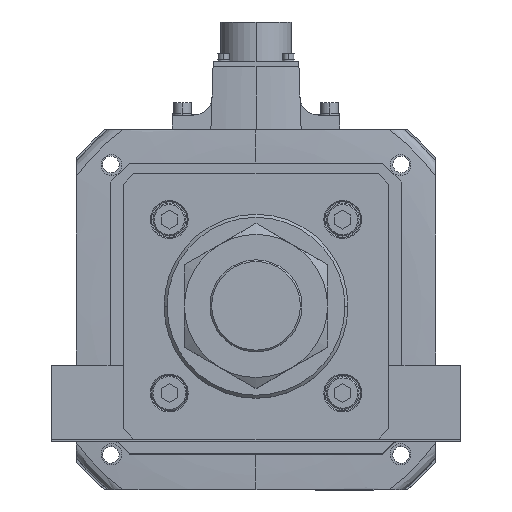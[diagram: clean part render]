
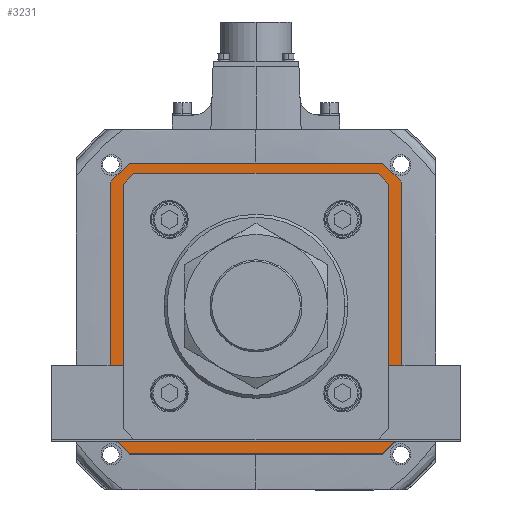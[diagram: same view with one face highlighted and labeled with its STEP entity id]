
A CAD part, top view. The second image highlights one B-rep face of the part: STEP entity #3231.
In plain terms, the highlighted planar face has unit normal (0, 0, 1).
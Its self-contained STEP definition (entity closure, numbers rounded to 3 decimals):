
#511 = VERTEX_POINT ( 'NONE', #18788 ) ;
#702 = DIRECTION ( 'NONE',  ( 1., 0., 0. ) ) ;
#706 = ORIENTED_EDGE ( 'NONE', *, *, #29351, .F. ) ;
#1806 = CARTESIAN_POINT ( 'NONE',  ( -62., -71., -142. ) ) ;
#1994 = VECTOR ( 'NONE', #38359, 1000. ) ;
#2083 = LINE ( 'NONE', #52412, #31493 ) ;
#2365 = CARTESIAN_POINT ( 'NONE',  ( 62., 71., -142. ) ) ;
#2744 = VERTEX_POINT ( 'NONE', #54514 ) ;
#3175 = LINE ( 'NONE', #4490, #17209 ) ;
#3231 = ADVANCED_FACE ( 'NONE', ( #54188, #6120 ), #26068, .T. ) ;
#3271 = CARTESIAN_POINT ( 'NONE',  ( -62., -71., -142. ) ) ;
#3335 = EDGE_CURVE ( 'NONE', #51892, #14984, #2083, .T. ) ;
#4490 = CARTESIAN_POINT ( 'NONE',  ( 63., 0., -142. ) ) ;
#4560 = CARTESIAN_POINT ( 'NONE',  ( 71., 62., -142. ) ) ;
#5049 = LINE ( 'NONE', #15846, #13117 ) ;
#5107 = ORIENTED_EDGE ( 'NONE', *, *, #38384, .T. ) ;
#5131 = ORIENTED_EDGE ( 'NONE', *, *, #49811, .F. ) ;
#5380 = EDGE_CURVE ( 'NONE', #35681, #32836, #10688, .T. ) ;
#5412 = DIRECTION ( 'NONE',  ( 0., -1., 0. ) ) ;
#5540 = EDGE_CURVE ( 'NONE', #2744, #11419, #24704, .T. ) ;
#6120 = FACE_OUTER_BOUND ( 'NONE', #26437, .T. ) ;
#6607 = VERTEX_POINT ( 'NONE', #15430 ) ;
#7758 = ORIENTED_EDGE ( 'NONE', *, *, #5380, .F. ) ;
#7759 = ORIENTED_EDGE ( 'NONE', *, *, #20086, .T. ) ;
#7825 = LINE ( 'NONE', #34876, #10519 ) ;
#8466 = CARTESIAN_POINT ( 'NONE',  ( 60.896, 60.896, -142. ) ) ;
#9086 = CARTESIAN_POINT ( 'NONE',  ( -58.793, 63., -142. ) ) ;
#10519 = VECTOR ( 'NONE', #13601, 1000. ) ;
#10688 = LINE ( 'NONE', #37220, #45439 ) ;
#10975 = DIRECTION ( 'NONE',  ( -0.707, 0.707, 0. ) ) ;
#11131 = EDGE_CURVE ( 'NONE', #6607, #31529, #16256, .T. ) ;
#11169 = EDGE_CURVE ( 'NONE', #43948, #2744, #14489, .T. ) ;
#11419 = VERTEX_POINT ( 'NONE', #52798 ) ;
#12360 = DIRECTION ( 'NONE',  ( 1., 0., 0. ) ) ;
#12565 = VECTOR ( 'NONE', #5412, 1000. ) ;
#12708 = CARTESIAN_POINT ( 'NONE',  ( 0., 0., -142. ) ) ;
#13117 = VECTOR ( 'NONE', #16215, 1000. ) ;
#13208 = CARTESIAN_POINT ( 'NONE',  ( 62., -71., -142. ) ) ;
#13601 = DIRECTION ( 'NONE',  ( -1., 0., 0. ) ) ;
#13874 = CARTESIAN_POINT ( 'NONE',  ( 62., -71., -142. ) ) ;
#14489 = LINE ( 'NONE', #42795, #31072 ) ;
#14984 = VERTEX_POINT ( 'NONE', #49149 ) ;
#15310 = CARTESIAN_POINT ( 'NONE',  ( 71., -62., -142. ) ) ;
#15430 = CARTESIAN_POINT ( 'NONE',  ( -62., 71., -142. ) ) ;
#15846 = CARTESIAN_POINT ( 'NONE',  ( 60.896, -60.896, -142. ) ) ;
#15890 = VECTOR ( 'NONE', #27596, 1000. ) ;
#15907 = ORIENTED_EDGE ( 'NONE', *, *, #20280, .F. ) ;
#15943 = CARTESIAN_POINT ( 'NONE',  ( -62., 71., -142. ) ) ;
#16215 = DIRECTION ( 'NONE',  ( -0.707, -0.707, 0. ) ) ;
#16256 = LINE ( 'NONE', #54868, #24883 ) ;
#17209 = VECTOR ( 'NONE', #21864, 1000. ) ;
#18155 = CARTESIAN_POINT ( 'NONE',  ( -71., 62., -142. ) ) ;
#18307 = CARTESIAN_POINT ( 'NONE',  ( 58.793, -63., -142. ) ) ;
#18788 = CARTESIAN_POINT ( 'NONE',  ( 63., 58.793, -142. ) ) ;
#19979 = ORIENTED_EDGE ( 'NONE', *, *, #28321, .T. ) ;
#20044 = DIRECTION ( 'NONE',  ( 0., 1., 0. ) ) ;
#20086 = EDGE_CURVE ( 'NONE', #23918, #43948, #7825, .T. ) ;
#20280 = EDGE_CURVE ( 'NONE', #29941, #35681, #42595, .T. ) ;
#21056 = VECTOR ( 'NONE', #45848, 1000. ) ;
#21367 = ORIENTED_EDGE ( 'NONE', *, *, #37027, .T. ) ;
#21432 = ORIENTED_EDGE ( 'NONE', *, *, #39941, .F. ) ;
#21864 = DIRECTION ( 'NONE',  ( 0., -1., 0. ) ) ;
#21924 = LINE ( 'NONE', #30969, #12565 ) ;
#22018 = DIRECTION ( 'NONE',  ( 0., 0., 1. ) ) ;
#22404 = LINE ( 'NONE', #15943, #21056 ) ;
#23918 = VERTEX_POINT ( 'NONE', #18307 ) ;
#24704 = LINE ( 'NONE', #28952, #1994 ) ;
#24769 = VECTOR ( 'NONE', #50889, 1000. ) ;
#24883 = VECTOR ( 'NONE', #12360, 1000. ) ;
#25352 = DIRECTION ( 'NONE',  ( 1., 0., 0. ) ) ;
#26068 = PLANE ( 'NONE',  #34599 ) ;
#26437 = EDGE_LOOP ( 'NONE', ( #54541, #40523, #7758, #15907, #21432, #5131, #40869, #706 ) ) ;
#27111 = DIRECTION ( 'NONE',  ( 0.707, -0.707, 0. ) ) ;
#27596 = DIRECTION ( 'NONE',  ( -0.707, -0.707, 0. ) ) ;
#28321 = EDGE_CURVE ( 'NONE', #11419, #51892, #39640, .T. ) ;
#28952 = CARTESIAN_POINT ( 'NONE',  ( -63., 0., -142. ) ) ;
#29351 = EDGE_CURVE ( 'NONE', #31529, #37857, #54827, .T. ) ;
#29941 = VERTEX_POINT ( 'NONE', #3271 ) ;
#30282 = LINE ( 'NONE', #13874, #31625 ) ;
#30969 = CARTESIAN_POINT ( 'NONE',  ( 71., 62., -142. ) ) ;
#31021 = DIRECTION ( 'NONE',  ( -1., 0., 0. ) ) ;
#31072 = VECTOR ( 'NONE', #38687, 1000. ) ;
#31493 = VECTOR ( 'NONE', #702, 1000. ) ;
#31529 = VERTEX_POINT ( 'NONE', #2365 ) ;
#31625 = VECTOR ( 'NONE', #31021, 1000. ) ;
#31908 = LINE ( 'NONE', #15310, #15890 ) ;
#32836 = VERTEX_POINT ( 'NONE', #18155 ) ;
#33553 = VERTEX_POINT ( 'NONE', #13208 ) ;
#34599 = AXIS2_PLACEMENT_3D ( 'NONE', #12708, #22018, #25352 ) ;
#34876 = CARTESIAN_POINT ( 'NONE',  ( 0., -63., -142. ) ) ;
#35554 = CARTESIAN_POINT ( 'NONE',  ( 71., 62., -142. ) ) ;
#35681 = VERTEX_POINT ( 'NONE', #54907 ) ;
#37027 = EDGE_CURVE ( 'NONE', #511, #50543, #3175, .T. ) ;
#37220 = CARTESIAN_POINT ( 'NONE',  ( -71., 62., -142. ) ) ;
#37857 = VERTEX_POINT ( 'NONE', #4560 ) ;
#37930 = VECTOR ( 'NONE', #10975, 1000. ) ;
#38359 = DIRECTION ( 'NONE',  ( 0., 1., 0. ) ) ;
#38384 = EDGE_CURVE ( 'NONE', #50543, #23918, #5049, .T. ) ;
#38687 = DIRECTION ( 'NONE',  ( -0.707, 0.707, 0. ) ) ;
#39640 = LINE ( 'NONE', #43000, #46985 ) ;
#39941 = EDGE_CURVE ( 'NONE', #33553, #29941, #30282, .T. ) ;
#40523 = ORIENTED_EDGE ( 'NONE', *, *, #54568, .F. ) ;
#40869 = ORIENTED_EDGE ( 'NONE', *, *, #52958, .F. ) ;
#42595 = LINE ( 'NONE', #1806, #37930 ) ;
#42795 = CARTESIAN_POINT ( 'NONE',  ( -60.896, -60.896, -142. ) ) ;
#43000 = CARTESIAN_POINT ( 'NONE',  ( -60.896, 60.896, -142. ) ) ;
#43948 = VERTEX_POINT ( 'NONE', #49303 ) ;
#45439 = VECTOR ( 'NONE', #20044, 1000. ) ;
#45486 = ORIENTED_EDGE ( 'NONE', *, *, #47792, .T. ) ;
#45765 = ORIENTED_EDGE ( 'NONE', *, *, #3335, .T. ) ;
#45811 = ORIENTED_EDGE ( 'NONE', *, *, #11169, .T. ) ;
#45848 = DIRECTION ( 'NONE',  ( 0.707, 0.707, 0. ) ) ;
#46985 = VECTOR ( 'NONE', #51733, 1000. ) ;
#47792 = EDGE_CURVE ( 'NONE', #14984, #511, #50844, .T. ) ;
#48248 = ORIENTED_EDGE ( 'NONE', *, *, #5540, .T. ) ;
#49149 = CARTESIAN_POINT ( 'NONE',  ( 58.793, 63., -142. ) ) ;
#49303 = CARTESIAN_POINT ( 'NONE',  ( -58.793, -63., -142. ) ) ;
#49314 = CARTESIAN_POINT ( 'NONE',  ( 71., -62., -142. ) ) ;
#49811 = EDGE_CURVE ( 'NONE', #55041, #33553, #31908, .T. ) ;
#50097 = EDGE_LOOP ( 'NONE', ( #21367, #5107, #7759, #45811, #48248, #19979, #45765, #45486 ) ) ;
#50543 = VERTEX_POINT ( 'NONE', #50921 ) ;
#50844 = LINE ( 'NONE', #8466, #24769 ) ;
#50889 = DIRECTION ( 'NONE',  ( 0.707, -0.707, 0. ) ) ;
#50921 = CARTESIAN_POINT ( 'NONE',  ( 63., -58.793, -142. ) ) ;
#51547 = VECTOR ( 'NONE', #27111, 1000. ) ;
#51733 = DIRECTION ( 'NONE',  ( 0.707, 0.707, 0. ) ) ;
#51892 = VERTEX_POINT ( 'NONE', #9086 ) ;
#52412 = CARTESIAN_POINT ( 'NONE',  ( 0., 63., -142. ) ) ;
#52798 = CARTESIAN_POINT ( 'NONE',  ( -63., 58.793, -142. ) ) ;
#52958 = EDGE_CURVE ( 'NONE', #37857, #55041, #21924, .T. ) ;
#54188 = FACE_BOUND ( 'NONE', #50097, .T. ) ;
#54514 = CARTESIAN_POINT ( 'NONE',  ( -63., -58.793, -142. ) ) ;
#54541 = ORIENTED_EDGE ( 'NONE', *, *, #11131, .F. ) ;
#54568 = EDGE_CURVE ( 'NONE', #32836, #6607, #22404, .T. ) ;
#54827 = LINE ( 'NONE', #35554, #51547 ) ;
#54868 = CARTESIAN_POINT ( 'NONE',  ( 62., 71., -142. ) ) ;
#54907 = CARTESIAN_POINT ( 'NONE',  ( -71., -62., -142. ) ) ;
#55041 = VERTEX_POINT ( 'NONE', #49314 ) ;
